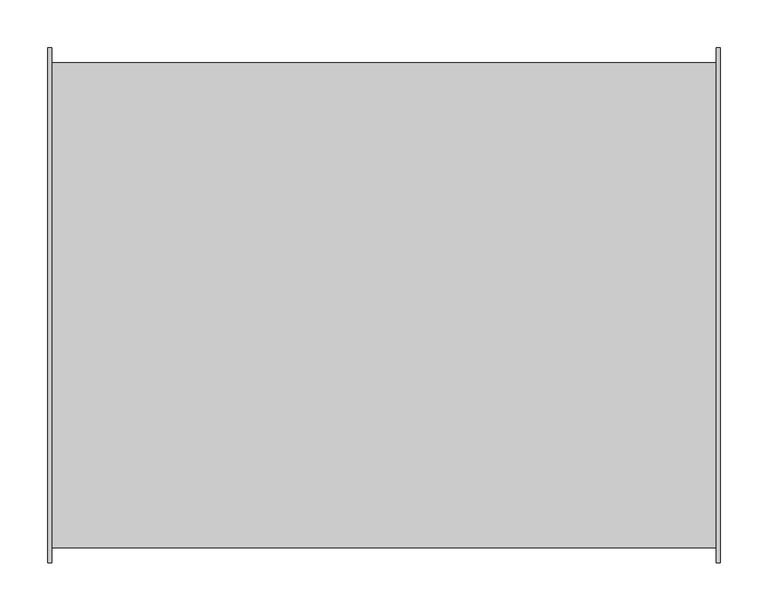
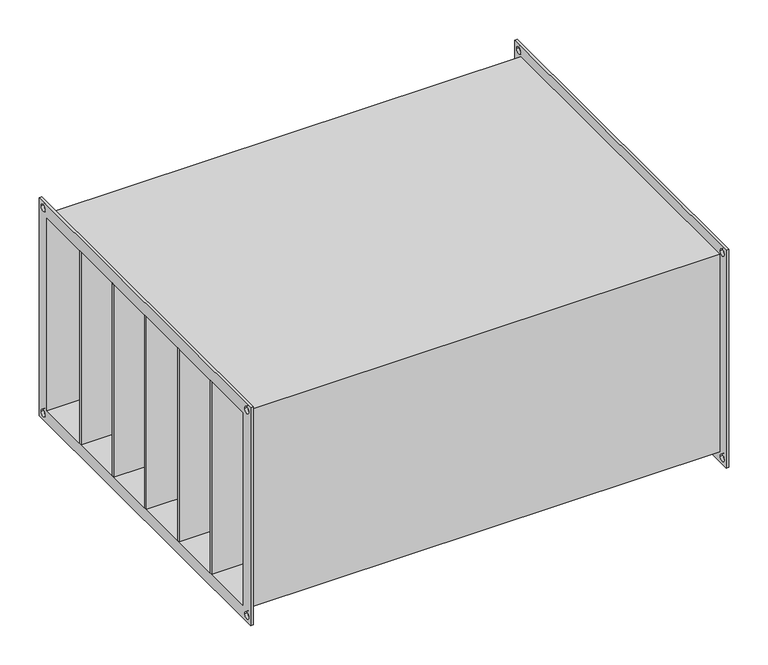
"""IFC4 building model written with IfcOpenShell, lengths in millimetres: damper geometry, СВ_ФильтрКарманный_КанальныйПрямоугольный_200-1000_SFPK : SFPK-500x300."""

from ifc_helpers import new_model, si_unit, frame, origin, place, context, project, spatial, polyline, circle_curve, outline, extrude, source, transform, mapped, element, save
from ifc_brep_helpers import plane_surface, revolved_surface, advanced_brep


def damper_69c0c055(model_context):
    return source(origin(), model_context, "Body", "SolidModel", [
        extrude(outline(polyline([(352.5, 166.6666667), (352.5, 162.6666667), (-352.5, 162.6666667), (-352.5, 166.6666667), (352.5, 166.6666667)])), frame((0.0, 0.0, -150.0), z_axis=(0.0, 0.0, 1.0), x_axis=(1.0, 0.0, 0.0)), (0.0, 0.0, 1.0), 300.0),
        extrude(outline(polyline([(352.5, 83.3333333), (352.5, 79.3333333), (-352.5, 79.3333333), (-352.5, 83.3333333), (352.5, 83.3333333)])), frame((0.0, 0.0, -150.0), z_axis=(0.0, 0.0, 1.0), x_axis=(1.0, 0.0, 0.0)), (0.0, 0.0, 1.0), 300.0),
        extrude(outline(polyline([(352.5, 0.0), (352.5, -4.0), (-352.5, -4.0), (-352.5, 0.0), (352.5, 0.0)])), frame((0.0, 0.0, -150.0), z_axis=(0.0, 0.0, 1.0), x_axis=(1.0, 0.0, 0.0)), (0.0, 0.0, 1.0), 300.0),
        extrude(outline(polyline([(352.5, -83.3333333), (352.5, -87.3333333), (-352.5, -87.3333333), (-352.5, -83.3333333), (352.5, -83.3333333)])), frame((0.0, 0.0, -150.0), z_axis=(0.0, 0.0, 1.0), x_axis=(1.0, 0.0, 0.0)), (0.0, 0.0, 1.0), 300.0),
        extrude(outline(polyline([(352.5, -166.6666667), (352.5, -170.6666667), (-352.5, -170.6666667), (-352.5, -166.6666667), (352.5, -166.6666667)])), frame((0.0, 0.0, -150.0), z_axis=(0.0, 0.0, 1.0), x_axis=(1.0, 0.0, 0.0)), (0.0, 0.0, 1.0), 300.0),
        advanced_brep(
        [(348.5, -254.0, 154.0), (-348.5, -254.0, 154.0), (-348.5, -254.0, -154.0), (348.5, -254.0, -154.0), (-348.5, 254.0, -154.0), (348.5, 254.0, -154.0), (-348.5, 254.0, 154.0), (348.5, 254.0, 154.0), (-352.5, -270.0, 170.0), (-352.5, 270.0, 170.0), (-352.5, 270.0, -170.0), (-352.5, -270.0, -170.0), (-352.5, -250.0, 150.0), (-352.5, -250.0, -150.0), (-352.5, 250.0, -150.0), (-352.5, 250.0, 150.0), (-352.5, 255.0, 160.0), (-352.5, 265.0, 160.0), (-352.5, -265.0, 160.0), (-352.5, -255.0, 160.0), (-352.5, -265.0, -160.0), (-352.5, -255.0, -160.0), (-352.5, 255.0, -160.0), (-352.5, 265.0, -160.0), (-348.5, -270.0, 170.0), (-348.5, -270.0, -170.0), (-348.5, 270.0, -170.0), (-348.5, 270.0, 170.0), (-348.5, 265.0, 160.0), (-348.5, 255.0, 160.0), (-348.5, -255.0, 160.0), (-348.5, -265.0, 160.0), (-348.5, -255.0, -160.0), (-348.5, -265.0, -160.0), (-348.5, 265.0, -160.0), (-348.5, 255.0, -160.0), (348.5, 270.0, 170.0), (348.5, 270.0, -170.0), (348.5, -270.0, -170.0), (348.5, -270.0, 170.0), (348.5, 255.0, 160.0), (348.5, 265.0, 160.0), (348.5, -265.0, 160.0), (348.5, -255.0, 160.0), (348.5, -265.0, -160.0), (348.5, -255.0, -160.0), (348.5, 255.0, -160.0), (348.5, 265.0, -160.0), (352.5, 270.0, 170.0), (352.5, -270.0, 170.0), (352.5, -270.0, -170.0), (352.5, 270.0, -170.0), (352.5, 250.0, 150.0), (352.5, 250.0, -150.0), (352.5, -250.0, -150.0), (352.5, -250.0, 150.0), (352.5, 265.0, 160.0), (352.5, 255.0, 160.0), (352.5, -255.0, 160.0), (352.5, -265.0, 160.0), (352.5, -255.0, -160.0), (352.5, -265.0, -160.0), (352.5, 265.0, -160.0), (352.5, 255.0, -160.0)],
        [
            (0, 1),
            (1, 2),
            (2, 3),
            (3, 0),
            (2, 4),
            (4, 5),
            (5, 3),
            (4, 6),
            (6, 7),
            (7, 5),
            (0, 7),
            (6, 1),
            (8, 9),
            (9, 10),
            (10, 11),
            (11, 8),
            (12, 13),
            (13, 14),
            (14, 15),
            (15, 12),
            (16, 17, circle_curve(frame((-352.5, 260.0, 160.0), z_axis=(1.0, 0.0, 0.0), x_axis=(0.0, 1.0, 0.0)), 5.0)),
            (17, 16, circle_curve(frame((-352.5, 260.0, 160.0), z_axis=(1.0, 0.0, 0.0), x_axis=(0.0, 1.0, 0.0)), 5.0)),
            (18, 19, circle_curve(frame((-352.5, -260.0, 160.0), z_axis=(1.0, 0.0, 0.0), x_axis=(0.0, 1.0, 0.0)), 5.0)),
            (19, 18, circle_curve(frame((-352.5, -260.0, 160.0), z_axis=(1.0, 0.0, 0.0), x_axis=(0.0, 1.0, 0.0)), 5.0)),
            (20, 21, circle_curve(frame((-352.5, -260.0, -160.0), z_axis=(1.0, 0.0, 0.0), x_axis=(0.0, 1.0, 0.0)), 5.0)),
            (21, 20, circle_curve(frame((-352.5, -260.0, -160.0), z_axis=(1.0, 0.0, 0.0), x_axis=(0.0, 1.0, 0.0)), 5.0)),
            (22, 23, circle_curve(frame((-352.5, 260.0, -160.0), z_axis=(1.0, 0.0, 0.0), x_axis=(0.0, 1.0, 0.0)), 5.0)),
            (23, 22, circle_curve(frame((-352.5, 260.0, -160.0), z_axis=(1.0, 0.0, 0.0), x_axis=(0.0, 1.0, 0.0)), 5.0)),
            (24, 25),
            (25, 26),
            (26, 27),
            (27, 24),
            (28, 29, circle_curve(frame((-348.5, 260.0, 160.0), z_axis=(-1.0, 0.0, 0.0), x_axis=(0.0, 1.0, 0.0)), 5.0)),
            (29, 28, circle_curve(frame((-348.5, 260.0, 160.0), z_axis=(-1.0, 0.0, 0.0), x_axis=(0.0, 1.0, 0.0)), 5.0)),
            (30, 31, circle_curve(frame((-348.5, -260.0, 160.0), z_axis=(-1.0, 0.0, 0.0), x_axis=(0.0, 1.0, 0.0)), 5.0)),
            (31, 30, circle_curve(frame((-348.5, -260.0, 160.0), z_axis=(-1.0, 0.0, 0.0), x_axis=(0.0, 1.0, 0.0)), 5.0)),
            (32, 33, circle_curve(frame((-348.5, -260.0, -160.0), z_axis=(-1.0, 0.0, 0.0), x_axis=(0.0, 1.0, 0.0)), 5.0)),
            (33, 32, circle_curve(frame((-348.5, -260.0, -160.0), z_axis=(-1.0, 0.0, 0.0), x_axis=(0.0, 1.0, 0.0)), 5.0)),
            (34, 35, circle_curve(frame((-348.5, 260.0, -160.0), z_axis=(-1.0, 0.0, 0.0), x_axis=(0.0, 1.0, 0.0)), 5.0)),
            (35, 34, circle_curve(frame((-348.5, 260.0, -160.0), z_axis=(-1.0, 0.0, 0.0), x_axis=(0.0, 1.0, 0.0)), 5.0)),
            (11, 25),
            (24, 8),
            (10, 26),
            (9, 27),
            (36, 37),
            (37, 38),
            (38, 39),
            (39, 36),
            (40, 41, circle_curve(frame((348.5, 260.0, 160.0), z_axis=(1.0, 0.0, 0.0), x_axis=(0.0, 1.0, 0.0)), 5.0)),
            (41, 40, circle_curve(frame((348.5, 260.0, 160.0), z_axis=(1.0, 0.0, 0.0), x_axis=(0.0, 1.0, 0.0)), 5.0)),
            (42, 43, circle_curve(frame((348.5, -260.0, 160.0), z_axis=(1.0, 0.0, 0.0), x_axis=(0.0, 1.0, 0.0)), 5.0)),
            (43, 42, circle_curve(frame((348.5, -260.0, 160.0), z_axis=(1.0, 0.0, 0.0), x_axis=(0.0, 1.0, 0.0)), 5.0)),
            (44, 45, circle_curve(frame((348.5, -260.0, -160.0), z_axis=(1.0, 0.0, 0.0), x_axis=(0.0, 1.0, 0.0)), 5.0)),
            (45, 44, circle_curve(frame((348.5, -260.0, -160.0), z_axis=(1.0, 0.0, 0.0), x_axis=(0.0, 1.0, 0.0)), 5.0)),
            (46, 47, circle_curve(frame((348.5, 260.0, -160.0), z_axis=(1.0, 0.0, 0.0), x_axis=(0.0, 1.0, 0.0)), 5.0)),
            (47, 46, circle_curve(frame((348.5, 260.0, -160.0), z_axis=(1.0, 0.0, 0.0), x_axis=(0.0, 1.0, 0.0)), 5.0)),
            (48, 49),
            (49, 50),
            (50, 51),
            (51, 48),
            (52, 53),
            (53, 54),
            (54, 55),
            (55, 52),
            (56, 57, circle_curve(frame((352.5, 260.0, 160.0), z_axis=(-1.0, 0.0, 0.0), x_axis=(0.0, 1.0, 0.0)), 5.0)),
            (57, 56, circle_curve(frame((352.5, 260.0, 160.0), z_axis=(-1.0, 0.0, 0.0), x_axis=(0.0, 1.0, 0.0)), 5.0)),
            (58, 59, circle_curve(frame((352.5, -260.0, 160.0), z_axis=(-1.0, 0.0, 0.0), x_axis=(0.0, 1.0, 0.0)), 5.0)),
            (59, 58, circle_curve(frame((352.5, -260.0, 160.0), z_axis=(-1.0, 0.0, 0.0), x_axis=(0.0, 1.0, 0.0)), 5.0)),
            (60, 61, circle_curve(frame((352.5, -260.0, -160.0), z_axis=(-1.0, 0.0, 0.0), x_axis=(0.0, 1.0, 0.0)), 5.0)),
            (61, 60, circle_curve(frame((352.5, -260.0, -160.0), z_axis=(-1.0, 0.0, 0.0), x_axis=(0.0, 1.0, 0.0)), 5.0)),
            (62, 63, circle_curve(frame((352.5, 260.0, -160.0), z_axis=(-1.0, 0.0, 0.0), x_axis=(0.0, 1.0, 0.0)), 5.0)),
            (63, 62, circle_curve(frame((352.5, 260.0, -160.0), z_axis=(-1.0, 0.0, 0.0), x_axis=(0.0, 1.0, 0.0)), 5.0)),
            (39, 49),
            (48, 36),
            (38, 50),
            (37, 51),
            (15, 52),
            (55, 12),
            (14, 53),
            (13, 54),
            (16, 29),
            (28, 17),
            (40, 57),
            (56, 41),
            (18, 31),
            (30, 19),
            (42, 59),
            (58, 43),
            (20, 33),
            (32, 21),
            (44, 61),
            (60, 45),
            (22, 35),
            (34, 23),
            (46, 63),
            (62, 47),
        ],
        [
            plane_surface(frame((348.5, -254.0, 154.0), z_axis=(0.0, -1.0, 0.0), x_axis=(-1.0, 0.0, 0.0))),
            plane_surface(frame((348.5, -254.0, -154.0), z_axis=(0.0, 0.0, -1.0), x_axis=(-1.0, 0.0, 0.0))),
            plane_surface(frame((348.5, 254.0, -154.0), z_axis=(0.0, 1.0, 0.0), x_axis=(-1.0, 0.0, 0.0))),
            plane_surface(frame((348.5, 254.0, 154.0), z_axis=(0.0, 0.0, 1.0), x_axis=(-1.0, 0.0, 0.0))),
            plane_surface(frame((-352.5, -270.0, 170.0), z_axis=(-1.0, 0.0, 0.0), x_axis=(0.0, 0.0, 1.0))),
            plane_surface(frame((-348.5, -270.0, 170.0), z_axis=(1.0, 0.0, 0.0), x_axis=(0.0, 0.0, -1.0))),
            plane_surface(frame((-348.5, -270.0, 170.0), z_axis=(0.0, -1.0, 0.0), x_axis=(-1.0, 0.0, 0.0))),
            plane_surface(frame((-348.5, -270.0, -170.0), z_axis=(0.0, 0.0, -1.0), x_axis=(-1.0, 0.0, 0.0))),
            plane_surface(frame((-348.5, 270.0, -170.0), z_axis=(0.0, 1.0, 0.0), x_axis=(-1.0, 0.0, 0.0))),
            plane_surface(frame((-348.5, 270.0, 170.0), z_axis=(0.0, 0.0, 1.0), x_axis=(-1.0, 0.0, 0.0))),
            plane_surface(frame((348.5, 250.0, -150.0), z_axis=(-1.0, 0.0, 0.0), x_axis=(0.0, 0.0, 1.0))),
            plane_surface(frame((352.5, 250.0, -150.0), z_axis=(1.0, 0.0, 0.0), x_axis=(0.0, 0.0, -1.0))),
            plane_surface(frame((352.5, 270.0, 170.0), z_axis=(0.0, 0.0, 1.0), x_axis=(-1.0, 0.0, 0.0))),
            plane_surface(frame((352.5, -270.0, 170.0), z_axis=(0.0, -1.0, 0.0), x_axis=(-1.0, 0.0, 0.0))),
            plane_surface(frame((352.5, -270.0, -170.0), z_axis=(0.0, 0.0, -1.0), x_axis=(-1.0, 0.0, 0.0))),
            plane_surface(frame((352.5, 270.0, -170.0), z_axis=(0.0, 1.0, 0.0), x_axis=(-1.0, 0.0, 0.0))),
            plane_surface(frame((-348.5, -250.0, 150.0), z_axis=(0.0, 0.0, -1.0), x_axis=(-1.0, 0.0, 0.0))),
            plane_surface(frame((-348.5, 250.0, 150.0), z_axis=(0.0, -1.0, 0.0), x_axis=(-1.0, 0.0, 0.0))),
            plane_surface(frame((-348.5, 250.0, -150.0), z_axis=(0.0, 0.0, 1.0), x_axis=(-1.0, 0.0, 0.0))),
            plane_surface(frame((-348.5, -250.0, -150.0), z_axis=(0.0, 1.0, 0.0), x_axis=(-1.0, 0.0, 0.0))),
            revolved_surface(polyline([(-348.5, 265.0, 160.0), (-352.5, 265.0, 160.0)]), (-352.5, 260.0, 160.0), (1.0, 0.0, 0.0)),
            revolved_surface(polyline([(352.5, 265.0, 160.0), (348.5, 265.0, 160.0)]), (-352.5, 260.0, 160.0), (1.0, 0.0, 0.0)),
            revolved_surface(polyline([(-348.5, -255.0, 160.0), (-352.5, -255.0, 160.0)]), (0.0, -260.0, 160.0), (1.0, 0.0, 0.0)),
            revolved_surface(polyline([(352.5, -255.0, 160.0), (348.5, -255.0, 160.0)]), (0.0, -260.0, 160.0), (1.0, 0.0, 0.0)),
            revolved_surface(polyline([(-348.5, -255.0, -160.0), (-352.5, -255.0, -160.0)]), (0.0, -260.0, -160.0), (1.0, 0.0, 0.0)),
            revolved_surface(polyline([(352.5, -255.0, -160.0), (348.5, -255.0, -160.0)]), (0.0, -260.0, -160.0), (1.0, 0.0, 0.0)),
            revolved_surface(polyline([(-348.5, 265.0, -160.0), (-352.5, 265.0, -160.0)]), (0.0, 260.0, -160.0), (1.0, 0.0, 0.0)),
            revolved_surface(polyline([(352.5, 265.0, -160.0), (348.5, 265.0, -160.0)]), (0.0, 260.0, -160.0), (1.0, 0.0, 0.0)),
        ],
        [
            (0, [[1, 2, 3, 4]]),
            (1, [[-3, 5, 6, 7]]),
            (2, [[-6, 8, 9, 10]]),
            (3, [[-1, 11, -9, 12]]),
            (4, [[13, 14, 15, 16], [17, 18, 19, 20], [21, 22], [23, 24], [25, 26], [27, 28]]),
            (5, [[29, 30, 31, 32], [-2, -12, -8, -5], [33, 34], [35, 36], [37, 38], [39, 40]]),
            (6, [[-16, 41, -29, 42]]),
            (7, [[-15, 43, -30, -41]]),
            (8, [[-14, 44, -31, -43]]),
            (9, [[-13, -42, -32, -44]]),
            (10, [[45, 46, 47, 48], [-4, -7, -10, -11], [49, 50], [51, 52], [53, 54], [55, 56]]),
            (11, [[57, 58, 59, 60], [61, 62, 63, 64], [65, 66], [67, 68], [69, 70], [71, 72]]),
            (12, [[-48, 73, -57, 74]]),
            (13, [[-47, 75, -58, -73]]),
            (14, [[-46, 76, -59, -75]]),
            (15, [[-45, -74, -60, -76]]),
            (16, [[-20, 77, -64, 78]]),
            (17, [[-77, -19, 79, -61]]),
            (18, [[-79, -18, 80, -62]]),
            (19, [[-80, -17, -78, -63]]),
            (20, [[81, -33, 82, -21]]),
            (21, [[83, -65, 84, -49]]),
            (20, [[-81, -22, -82, -34]]),
            (21, [[-83, -50, -84, -66]]),
            (22, [[85, -35, 86, -23]]),
            (23, [[87, -67, 88, -51]]),
            (22, [[-85, -24, -86, -36]]),
            (23, [[-87, -52, -88, -68]]),
            (24, [[89, -37, 90, -25]]),
            (25, [[91, -69, 92, -53]]),
            (24, [[-89, -26, -90, -38]]),
            (25, [[-91, -54, -92, -70]]),
            (26, [[93, -39, 94, -27]]),
            (27, [[95, -71, 96, -55]]),
            (26, [[-93, -28, -94, -40]]),
            (27, [[-95, -56, -96, -72]]),
        ],
    ),
    ])


if __name__ == "__main__":
    model = new_model("IFC4")
    model_context = context("Model", 3, world=origin())
    ifc_project = project(units=[si_unit("LENGTHUNIT", "METRE", prefix="MILLI")], contexts=[model_context])
    site = spatial("IfcSite", under=ifc_project)
    building = spatial("IfcBuilding", under=site)
    placement = place(None, origin())
    damper_shape = damper_69c0c055(model_context)
    element("IfcDamper", 1, ObjectType="СВ_ФильтрКарманный_КанальныйПрямоугольный_200-1000_SFPK : SFPK-500x300", at=placement, inside=building, context=model_context, shape_type="MappedRepresentation", body=[
        mapped(damper_shape, transform((0.0, 0.0, 0.0), x_axis=(1.0, 0.0, 0.0), y_axis=(0.0, 1.0, 0.0), z_axis=(0.0, 0.0, 1.0))),
    ])
    save(model, "model.ifc")
